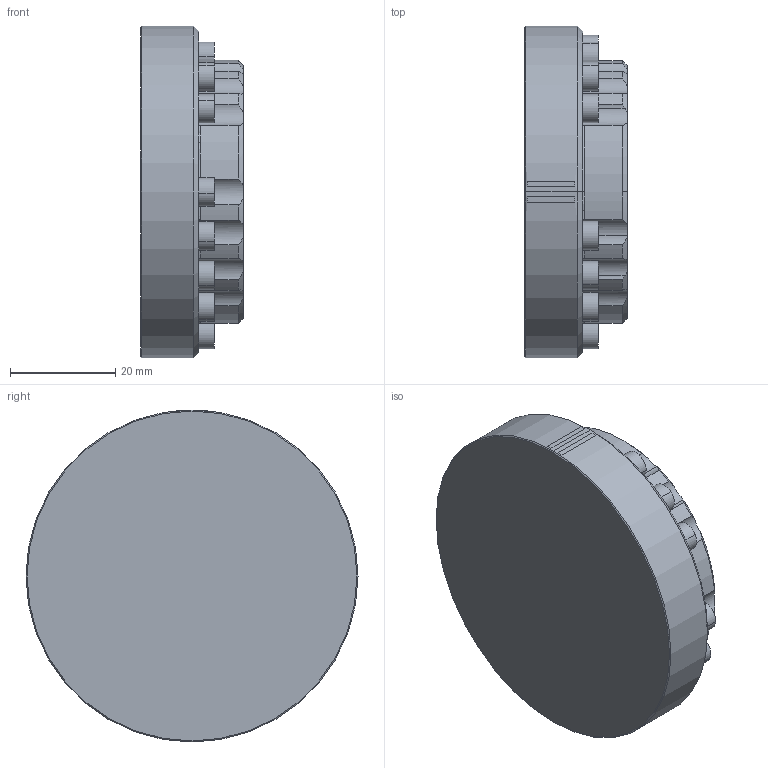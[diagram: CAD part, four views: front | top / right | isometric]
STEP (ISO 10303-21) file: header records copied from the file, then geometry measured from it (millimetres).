
FILE_DESCRIPTION (( 'STEP AP203' ), '1' );
FILE_NAME ('IRB1300 Type A_10Kg-1150-IP40IP67CR-STD_OC_00_link6.STEP', '2026-05-19T12:43:50', ( '' ), ( '' ), 'SwSTEP 2.0', 'SolidWorks 2024', '' );
FILE_SCHEMA (( 'CONFIG_CONTROL_DESIGN' ));
Length unit declared in the file: millimetre
Products named in the file (1): IRB1300 Type A_10Kg-1150-IP40IP67CR-STD_OC_00_link6
Bounding box: 19.5 x 63 x 63 mm (x, y, z)
Volume: 46902 mm3; surface area: 11863.5 mm2
Topology: 1 solids, 1 shells, 164 faces, 399 edges, 260 vertices
Faces by surface type: cylinder 91, cone 30, plane 25, torus 18
Entity records: 5843 total; most frequent: CARTESIAN_POINT 1832, DIRECTION 884, ORIENTED_EDGE 790, EDGE_CURVE 395, AXIS2_PLACEMENT_3D 388, VERTEX_POINT 260, CIRCLE 223, EDGE_LOOP 191
